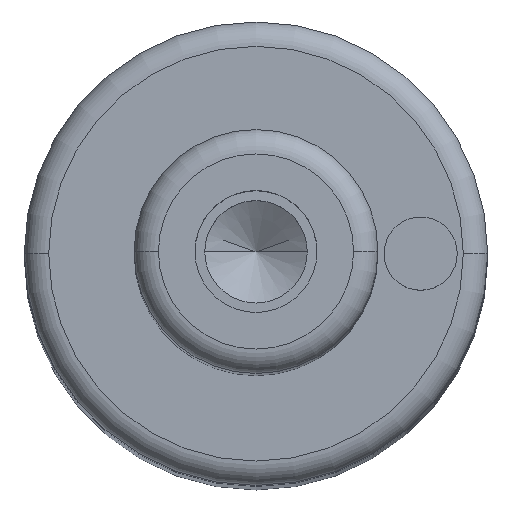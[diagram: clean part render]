
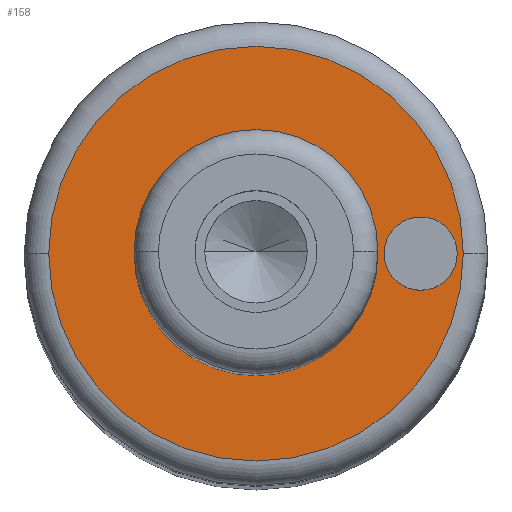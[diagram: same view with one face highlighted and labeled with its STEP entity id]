
A CAD part, top view. The second image highlights one B-rep face of the part: STEP entity #158.
In plain terms, the highlighted planar face has unit normal (0, 0, 1).
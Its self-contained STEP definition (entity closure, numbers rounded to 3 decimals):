
#105=PLANE('',#628);
#113=FACE_BOUND('',#229,.T.);
#114=FACE_BOUND('',#230,.T.);
#115=FACE_BOUND('',#231,.T.);
#158=ADVANCED_FACE('',(#113,#114,#115),#105,.T.);
#229=EDGE_LOOP('',(#375,#376));
#230=EDGE_LOOP('',(#377,#378));
#231=EDGE_LOOP('',(#379,#380));
#259=CIRCLE('',#596,5.);
#260=CIRCLE('',#598,5.);
#264=CIRCLE('',#603,8.5);
#265=CIRCLE('',#605,8.5);
#277=CIRCLE('',#626,1.5);
#278=CIRCLE('',#627,1.5);
#375=ORIENTED_EDGE('',*,*,#488,.F.);
#376=ORIENTED_EDGE('',*,*,#489,.F.);
#377=ORIENTED_EDGE('',*,*,#507,.F.);
#378=ORIENTED_EDGE('',*,*,#508,.F.);
#379=ORIENTED_EDGE('',*,*,#484,.T.);
#380=ORIENTED_EDGE('',*,*,#482,.T.);
#434=VERTEX_POINT('',#875);
#435=VERTEX_POINT('',#877);
#436=VERTEX_POINT('',#883);
#439=VERTEX_POINT('',#888);
#448=VERTEX_POINT('',#927);
#449=VERTEX_POINT('',#928);
#482=EDGE_CURVE('',#435,#434,#259,.T.);
#484=EDGE_CURVE('',#434,#435,#260,.T.);
#488=EDGE_CURVE('',#439,#436,#264,.T.);
#489=EDGE_CURVE('',#436,#439,#265,.T.);
#507=EDGE_CURVE('',#448,#449,#277,.T.);
#508=EDGE_CURVE('',#449,#448,#278,.T.);
#596=AXIS2_PLACEMENT_3D('',#876,#707,#708);
#598=AXIS2_PLACEMENT_3D('',#880,#712,#713);
#603=AXIS2_PLACEMENT_3D('',#889,#722,#723);
#605=AXIS2_PLACEMENT_3D('',#891,#726,#727);
#626=AXIS2_PLACEMENT_3D('',#926,#774,#775);
#627=AXIS2_PLACEMENT_3D('',#929,#776,#777);
#628=AXIS2_PLACEMENT_3D('',#930,#778,#779);
#707=DIRECTION('',(0.,0.,-1.));
#708=DIRECTION('',(0.,1.,0.));
#712=DIRECTION('',(0.,0.,-1.));
#713=DIRECTION('',(0.,-1.,0.));
#722=DIRECTION('',(0.,0.,-1.));
#723=DIRECTION('',(0.,1.,0.));
#726=DIRECTION('',(0.,0.,-1.));
#727=DIRECTION('',(0.,-1.,0.));
#774=DIRECTION('',(0.,0.,1.));
#775=DIRECTION('',(0.,1.,0.));
#776=DIRECTION('',(0.,0.,1.));
#777=DIRECTION('',(0.,-1.,0.));
#778=DIRECTION('',(0.,0.,1.));
#779=DIRECTION('',(0.,-1.,0.));
#875=CARTESIAN_POINT('',(-5.,0.,108.));
#876=CARTESIAN_POINT('',(0.,0.,108.));
#877=CARTESIAN_POINT('',(5.,0.,108.));
#880=CARTESIAN_POINT('',(0.,0.,108.));
#883=CARTESIAN_POINT('',(-8.5,0.,108.));
#888=CARTESIAN_POINT('',(8.5,0.,108.));
#889=CARTESIAN_POINT('',(0.,0.,108.));
#891=CARTESIAN_POINT('',(0.,0.,108.));
#926=CARTESIAN_POINT('',(6.75,0.,108.));
#927=CARTESIAN_POINT('',(5.25,0.,108.));
#928=CARTESIAN_POINT('',(8.25,0.,108.));
#929=CARTESIAN_POINT('',(6.75,0.,108.));
#930=CARTESIAN_POINT('',(0.,0.,108.));
